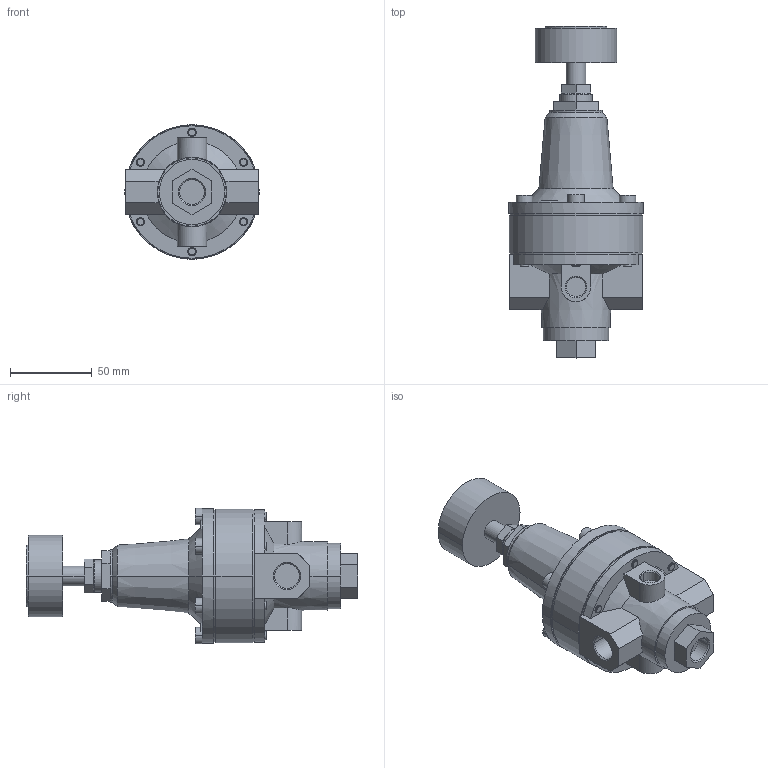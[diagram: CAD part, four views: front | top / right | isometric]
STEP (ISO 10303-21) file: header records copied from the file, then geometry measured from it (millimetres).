
FILE_DESCRIPTION((''),'2;1');
FILE_NAME('0821302556','2020-09-18T18:10:10',('GIO1HC'),(''),'CREO PARAMETRIC BY PTC INC, 2018190','CREO PARAMETRIC BY PTC INC, 2018190','');
FILE_SCHEMA(('AUTOMOTIVE_DESIGN { 1 0 10303 214 1 1 1 1 }'));
Length unit declared in the file: millimetre
Products named in the file (1): 0821302556
Bounding box: 82.4 x 203.5 x 83 mm (x, y, z)
Volume: 442739.5 mm3; surface area: 48795.4 mm2
Topology: 1 solids, 1 shells, 205 faces, 476 edges, 300 vertices
Faces by surface type: plane 111, cylinder 58, cone 36
Entity records: 6129 total; most frequent: CARTESIAN_POINT 1227, DIRECTION 1060, ORIENTED_EDGE 952, EDGE_CURVE 476, AXIS2_PLACEMENT_3D 401, VERTEX_POINT 300, VECTOR 258, LINE 258
